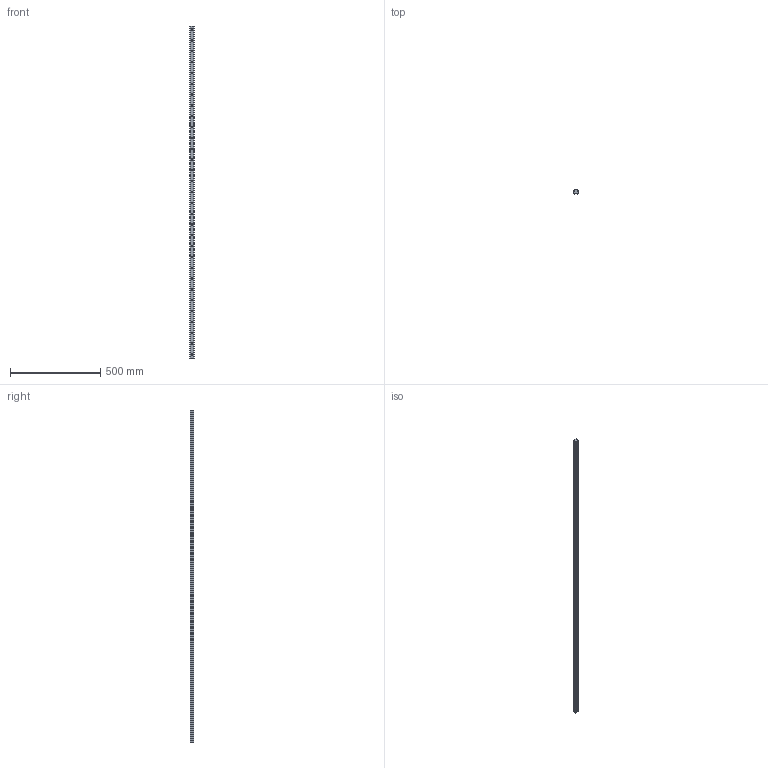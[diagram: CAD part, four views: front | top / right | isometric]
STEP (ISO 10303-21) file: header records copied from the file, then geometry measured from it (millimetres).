
FILE_DESCRIPTION (( 'STEP AP203' ), '1' );
FILE_NAME ('L1016.BL25-1840.step', '2019-06-12T12:09:05', ( '' ), ( '' ), 'SwSTEP 2.0', 'SolidWorks 2017', '' );
FILE_SCHEMA (( 'CONFIG_CONTROL_DESIGN' ));
Length unit declared in the file: millimetre
Products named in the file (1): L1016.BL25-1840
Bounding box: 23 x 19.2 x 1840 mm (x, y, z)
Volume: 677913.5 mm3; surface area: 174442.3 mm2
Topology: 1 solids, 1 shells, 181 faces, 444 edges, 296 vertices
Faces by surface type: cylinder 128, plane 53
Entity records: 5675 total; most frequent: DIRECTION 1064, CARTESIAN_POINT 922, ORIENTED_EDGE 888, EDGE_CURVE 444, AXIS2_PLACEMENT_3D 438, VERTEX_POINT 296, EDGE_LOOP 274, CIRCLE 256
